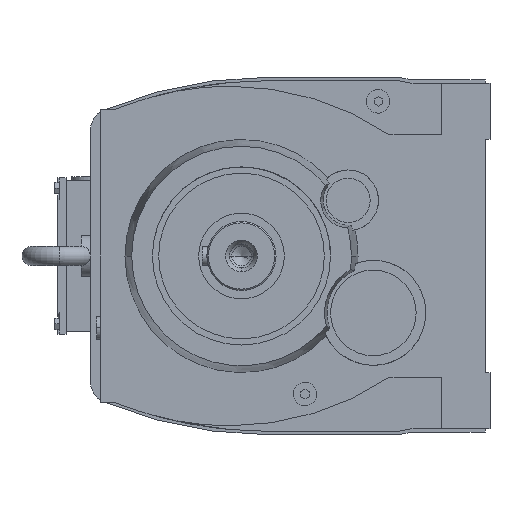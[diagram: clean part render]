
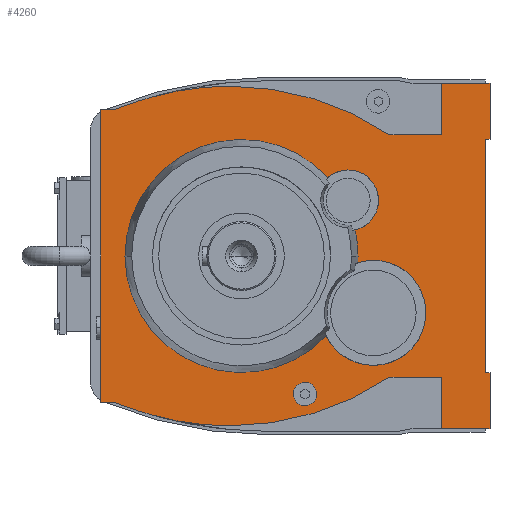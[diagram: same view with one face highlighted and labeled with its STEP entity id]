
A CAD part, left-side view. The second image highlights one B-rep face of the part: STEP entity #4260.
In plain terms, the highlighted planar face has unit normal (-1, 0, 0).
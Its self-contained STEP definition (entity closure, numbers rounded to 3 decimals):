
#360=CARTESIAN_POINT('',(63.5,-180.,-84.683));
#370=VERTEX_POINT('',#360);
#400=CARTESIAN_POINT('',(63.5,0.,-56.174));
#410=DIRECTION('',(0.,0.988,0.156));
#420=VECTOR('',#410,1.);
#430=LINE('',#400,#420);
#440=CARTESIAN_POINT('',(63.5,-176.5,-84.129));
#450=VERTEX_POINT('',#440);
#460=EDGE_CURVE('',#370,#450,#430,.T.);
#930=CARTESIAN_POINT('',(63.5,-95.225,52.964));
#940=VERTEX_POINT('',#930);
#970=CARTESIAN_POINT('',(63.5,-77.236,40.299));
#980=DIRECTION('',(1.,0.,0.));
#990=DIRECTION('',(0.,-0.818,0.576));
#1000=AXIS2_PLACEMENT_3D('',#970,#980,#990);
#1010=CIRCLE('',#1000,22.);
#1020=CARTESIAN_POINT('',(63.5,-82.261,18.88));
#1030=VERTEX_POINT('',#1020);
#1040=EDGE_CURVE('',#940,#1030,#1010,.T.);
#2010=CARTESIAN_POINT('',(63.5,-46.165,-93.007));
#2020=DIRECTION('',(-1.,0.,0.));
#2030=DIRECTION('',(0.,-1.,0.));
#2040=AXIS2_PLACEMENT_3D('',#2010,#2020,#2030);
#2050=PLANE('',#2040);
#2060=CARTESIAN_POINT('',(63.5,-20.,183.));
#2070=DIRECTION('',(-1.,0.,0.));
#2080=DIRECTION('',(0.,0.,1.));
#2090=AXIS2_PLACEMENT_3D('',#2060,#2070,#2080);
#2100=CIRCLE('',#2090,310.);
#2110=CARTESIAN_POINT('',(63.5,92.,-106.061));
#2120=VERTEX_POINT('',#2110);
#2130=CARTESIAN_POINT('',(63.5,65.448,-114.991));
#2140=VERTEX_POINT('',#2130);
#2150=EDGE_CURVE('',#2120,#2140,#2100,.T.);
#2160=ORIENTED_EDGE('',*,*,#2150,.T.);
#2170=CARTESIAN_POINT('',(63.5,92.,0.));
#2180=DIRECTION('',(0.,0.,-1.));
#2190=VECTOR('',#2180,1.);
#2200=LINE('',#2170,#2190);
#2210=CARTESIAN_POINT('',(63.5,92.,-106.));
#2220=VERTEX_POINT('',#2210);
#2230=EDGE_CURVE('',#2220,#2120,#2200,.T.);
#2240=ORIENTED_EDGE('',*,*,#2230,.T.);
#2250=CARTESIAN_POINT('',(63.5,101.,-106.));
#2260=DIRECTION('',(0.,1.,0.));
#2270=VECTOR('',#2260,1.);
#2280=LINE('',#2250,#2270);
#2290=CARTESIAN_POINT('',(63.5,102.,-106.));
#2300=VERTEX_POINT('',#2290);
#2310=EDGE_CURVE('',#2220,#2300,#2280,.T.);
#2320=ORIENTED_EDGE('',*,*,#2310,.F.);
#2330=CARTESIAN_POINT('',(63.5,102.,0.));
#2340=DIRECTION('',(0.,0.,1.));
#2350=VECTOR('',#2340,1.);
#2360=LINE('',#2330,#2350);
#2370=CARTESIAN_POINT('',(63.5,102.,106.));
#2380=VERTEX_POINT('',#2370);
#2390=EDGE_CURVE('',#2300,#2380,#2360,.T.);
#2400=ORIENTED_EDGE('',*,*,#2390,.F.);
#2410=CARTESIAN_POINT('',(63.5,101.,106.));
#2420=DIRECTION('',(0.,1.,0.));
#2430=VECTOR('',#2420,1.);
#2440=LINE('',#2410,#2430);
#2450=CARTESIAN_POINT('',(63.5,92.,106.));
#2460=VERTEX_POINT('',#2450);
#2470=EDGE_CURVE('',#2460,#2380,#2440,.T.);
#2480=ORIENTED_EDGE('',*,*,#2470,.T.);
#2490=CARTESIAN_POINT('',(63.5,92.,106.061));
#2500=VERTEX_POINT('',#2490);
#2510=EDGE_CURVE('',#2500,#2460,#2200,.T.);
#2520=ORIENTED_EDGE('',*,*,#2510,.T.);
#2530=CARTESIAN_POINT('',(63.5,-20.,-183.));
#2540=DIRECTION('',(1.,0.,0.));
#2550=DIRECTION('',(0.,0.,-1.));
#2560=AXIS2_PLACEMENT_3D('',#2530,#2540,#2550);
#2570=CIRCLE('',#2560,310.);
#2580=CARTESIAN_POINT('',(63.5,65.448,114.991));
#2590=VERTEX_POINT('',#2580);
#2600=EDGE_CURVE('',#2500,#2590,#2570,.T.);
#2610=ORIENTED_EDGE('',*,*,#2600,.F.);
#2620=CARTESIAN_POINT('',(63.5,8.391,-83.99));
#2630=DIRECTION('',(-1.,0.,0.));
#2640=DIRECTION('',(0.,0.,1.));
#2650=AXIS2_PLACEMENT_3D('',#2620,#2630,#2640);
#2660=CIRCLE('',#2650,207.);
#2670=CARTESIAN_POINT('',(63.5,8.391,123.01));
#2680=VERTEX_POINT('',#2670);
#2690=EDGE_CURVE('',#2680,#2590,#2660,.T.);
#2700=ORIENTED_EDGE('',*,*,#2690,.T.);
#2710=CARTESIAN_POINT('',(63.5,-106.798,88.));
#2720=VERTEX_POINT('',#2710);
#2730=EDGE_CURVE('',#2720,#2680,#2660,.T.);
#2740=ORIENTED_EDGE('',*,*,#2730,.T.);
#2750=CARTESIAN_POINT('',(63.5,0.,88.));
#2760=DIRECTION('',(0.,-1.,0.));
#2770=VECTOR('',#2760,1.);
#2780=LINE('',#2750,#2770);
#2790=CARTESIAN_POINT('',(63.5,-145.,88.));
#2800=VERTEX_POINT('',#2790);
#2810=EDGE_CURVE('',#2720,#2800,#2780,.T.);
#2820=ORIENTED_EDGE('',*,*,#2810,.F.);
#2830=CARTESIAN_POINT('',(63.5,-145.,0.));
#2840=DIRECTION('',(0.,0.,-1.));
#2850=VECTOR('',#2840,1.);
#2860=LINE('',#2830,#2850);
#2870=CARTESIAN_POINT('',(63.5,-145.,125.));
#2880=VERTEX_POINT('',#2870);
#2890=EDGE_CURVE('',#2880,#2800,#2860,.T.);
#2900=ORIENTED_EDGE('',*,*,#2890,.T.);
#2910=CARTESIAN_POINT('',(63.5,0.,125.));
#2920=DIRECTION('',(0.,-1.,0.));
#2930=VECTOR('',#2920,1.);
#2940=LINE('',#2910,#2930);
#2950=CARTESIAN_POINT('',(63.5,-180.,125.));
#2960=VERTEX_POINT('',#2950);
#2970=EDGE_CURVE('',#2880,#2960,#2940,.T.);
#2980=ORIENTED_EDGE('',*,*,#2970,.F.);
#2990=CARTESIAN_POINT('',(63.5,-180.,0.));
#3000=DIRECTION('',(0.,0.,1.));
#3010=VECTOR('',#3000,1.);
#3020=LINE('',#2990,#3010);
#3030=CARTESIAN_POINT('',(63.5,-180.,84.683));
#3040=VERTEX_POINT('',#3030);
#3050=EDGE_CURVE('',#3040,#2960,#3020,.T.);
#3060=ORIENTED_EDGE('',*,*,#3050,.T.);
#3070=CARTESIAN_POINT('',(63.5,0.,56.174));
#3080=DIRECTION('',(0.,-0.988,0.156));
#3090=VECTOR('',#3080,1.);
#3100=LINE('',#3070,#3090);
#3110=CARTESIAN_POINT('',(63.5,-176.5,84.129));
#3120=VERTEX_POINT('',#3110);
#3130=EDGE_CURVE('',#3120,#3040,#3100,.T.);
#3140=ORIENTED_EDGE('',*,*,#3130,.T.);
#3150=CARTESIAN_POINT('',(63.5,-176.5,0.));
#3160=DIRECTION('',(0.,0.,1.));
#3170=VECTOR('',#3160,1.);
#3180=LINE('',#3150,#3170);
#3190=EDGE_CURVE('',#450,#3120,#3180,.T.);
#3200=ORIENTED_EDGE('',*,*,#3190,.T.);
#3210=ORIENTED_EDGE('',*,*,#460,.T.);
#3220=CARTESIAN_POINT('',(63.5,-180.,0.));
#3230=DIRECTION('',(0.,0.,1.));
#3240=VECTOR('',#3230,1.);
#3250=LINE('',#3220,#3240);
#3260=CARTESIAN_POINT('',(63.5,-180.,-125.));
#3270=VERTEX_POINT('',#3260);
#3280=EDGE_CURVE('',#3270,#370,#3250,.T.);
#3290=ORIENTED_EDGE('',*,*,#3280,.T.);
#3300=CARTESIAN_POINT('',(63.5,0.,-125.));
#3310=DIRECTION('',(0.,1.,0.));
#3320=VECTOR('',#3310,1.);
#3330=LINE('',#3300,#3320);
#3340=CARTESIAN_POINT('',(63.5,-145.,-125.));
#3350=VERTEX_POINT('',#3340);
#3360=EDGE_CURVE('',#3270,#3350,#3330,.T.);
#3370=ORIENTED_EDGE('',*,*,#3360,.F.);
#3380=CARTESIAN_POINT('',(63.5,-145.,0.));
#3390=DIRECTION('',(0.,0.,1.));
#3400=VECTOR('',#3390,1.);
#3410=LINE('',#3380,#3400);
#3420=CARTESIAN_POINT('',(63.5,-145.,-88.));
#3430=VERTEX_POINT('',#3420);
#3440=EDGE_CURVE('',#3350,#3430,#3410,.T.);
#3450=ORIENTED_EDGE('',*,*,#3440,.F.);
#3460=CARTESIAN_POINT('',(63.5,0.,-88.));
#3470=DIRECTION('',(0.,1.,0.));
#3480=VECTOR('',#3470,1.);
#3490=LINE('',#3460,#3480);
#3500=CARTESIAN_POINT('',(63.5,-106.798,-88.));
#3510=VERTEX_POINT('',#3500);
#3520=EDGE_CURVE('',#3430,#3510,#3490,.T.);
#3530=ORIENTED_EDGE('',*,*,#3520,.F.);
#3540=CARTESIAN_POINT('',(63.5,8.391,83.99));
#3550=DIRECTION('',(1.,0.,0.));
#3560=DIRECTION('',(0.,0.,-1.));
#3570=AXIS2_PLACEMENT_3D('',#3540,#3550,#3560);
#3580=CIRCLE('',#3570,207.);
#3590=CARTESIAN_POINT('',(63.5,8.391,-123.01));
#3600=VERTEX_POINT('',#3590);
#3610=EDGE_CURVE('',#3510,#3600,#3580,.T.);
#3620=ORIENTED_EDGE('',*,*,#3610,.F.);
#3630=EDGE_CURVE('',#3600,#2140,#3580,.T.);
#3640=ORIENTED_EDGE('',*,*,#3630,.F.);
#3650=EDGE_LOOP('',(#3640,#3620,#3530,#3450,#3370,#3290,#3210,#3200,#3140,#3060,#2980,#2900,#2820,#2740,#2700,#2610,#2520,#2480,#2400,#2320,#2240,#2160));
#3660=FACE_OUTER_BOUND('',#3650,.T.);
#3670=CARTESIAN_POINT('',(63.5,-95.5,-41.179));
#3680=DIRECTION('',(1.,0.,0.));
#3690=DIRECTION('',(0.,-0.918,-0.396));
#3700=AXIS2_PLACEMENT_3D('',#3670,#3680,#3690);
#3710=CIRCLE('',#3700,38.);
#3720=CARTESIAN_POINT('',(63.5,-84.258,-4.88));
#3730=VERTEX_POINT('',#3720);
#3740=CARTESIAN_POINT('',(63.5,-130.394,-56.226));
#3750=VERTEX_POINT('',#3740);
#3760=EDGE_CURVE('',#3730,#3750,#3710,.T.);
#3770=ORIENTED_EDGE('',*,*,#3760,.T.);
#3780=CARTESIAN_POINT('',(63.5,0.,0.));
#3790=DIRECTION('',(1.,0.,0.));
#3800=DIRECTION('',(0.,-1.,0.));
#3810=AXIS2_PLACEMENT_3D('',#3780,#3790,#3800);
#3820=CIRCLE('',#3810,84.399);
#3830=CARTESIAN_POINT('',(63.5,-84.399,0.));
#3840=VERTEX_POINT('',#3830);
#3850=EDGE_CURVE('',#3840,#3730,#3820,.T.);
#3860=ORIENTED_EDGE('',*,*,#3850,.T.);
#3870=EDGE_CURVE('',#1030,#3840,#3820,.T.);
#3880=ORIENTED_EDGE('',*,*,#3870,.T.);
#3890=ORIENTED_EDGE('',*,*,#1040,.T.);
#3900=CARTESIAN_POINT('',(63.5,-62.542,56.672));
#3910=VERTEX_POINT('',#3900);
#3920=EDGE_CURVE('',#3910,#940,#1010,.T.);
#3930=ORIENTED_EDGE('',*,*,#3920,.T.);
#3940=CARTESIAN_POINT('',(63.5,0.,0.));
#3950=DIRECTION('',(1.,0.,0.));
#3960=DIRECTION('',(0.,-1.,0.));
#3970=AXIS2_PLACEMENT_3D('',#3940,#3950,#3960);
#3980=CIRCLE('',#3970,84.399);
#3990=CARTESIAN_POINT('',(63.5,84.399,0.));
#4000=VERTEX_POINT('',#3990);
#4010=EDGE_CURVE('',#4000,#3910,#3980,.T.);
#4020=ORIENTED_EDGE('',*,*,#4010,.T.);
#4030=CARTESIAN_POINT('',(63.5,-61.387,-57.922));
#4040=VERTEX_POINT('',#4030);
#4050=EDGE_CURVE('',#4040,#4000,#3980,.T.);
#4060=ORIENTED_EDGE('',*,*,#4050,.T.);
#4070=EDGE_CURVE('',#3750,#4040,#3710,.T.);
#4080=ORIENTED_EDGE('',*,*,#4070,.T.);
#4090=EDGE_LOOP('',(#4080,#4060,#4020,#3930,#3890,#3880,#3860,#3770));
#4100=FACE_BOUND('',#4090,.T.);
#4110=CARTESIAN_POINT('',(63.5,-46.,-100.));
#4120=DIRECTION('',(-1.,0.,0.));
#4130=DIRECTION('',(0.,-0.839,0.545));
#4140=AXIS2_PLACEMENT_3D('',#4110,#4120,#4130);
#4150=CIRCLE('',#4140,8.5);
#4160=CARTESIAN_POINT('',(63.5,-53.128,-95.369));
#4170=VERTEX_POINT('',#4160);
#4180=CARTESIAN_POINT('',(63.5,-38.872,-104.631));
#4190=VERTEX_POINT('',#4180);
#4200=EDGE_CURVE('',#4170,#4190,#4150,.T.);
#4210=ORIENTED_EDGE('',*,*,#4200,.F.);
#4220=EDGE_CURVE('',#4190,#4170,#4150,.T.);
#4230=ORIENTED_EDGE('',*,*,#4220,.F.);
#4240=EDGE_LOOP('',(#4230,#4210));
#4250=FACE_BOUND('',#4240,.T.);
#4260=ADVANCED_FACE('',(#3660,#4100,#4250),#2050,.T.);
